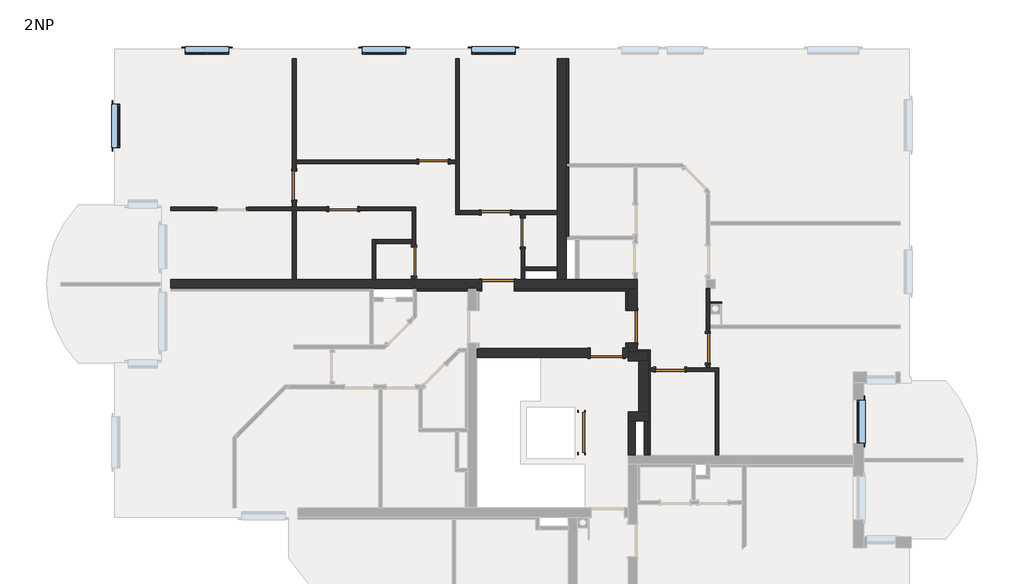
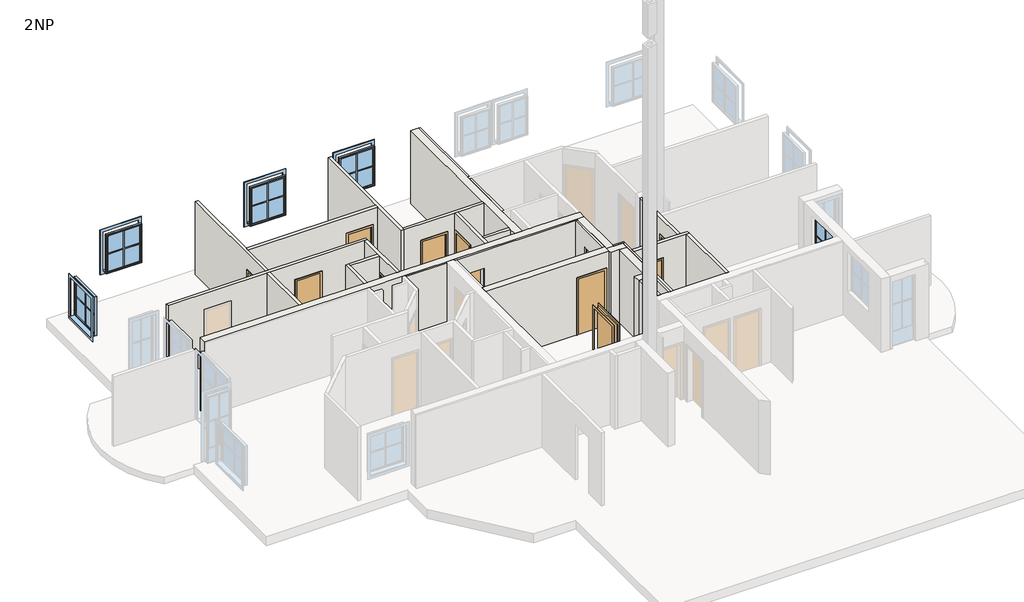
# One storey, part 3 of 4: 31 walls, 12 doors, 5 windows.
"""IFC4 building model written with IfcOpenShell, lengths in millimetres."""

import ifcopenshell
import ifcopenshell.guid

model = None  # the IFC model being written
_history = None  # IfcOwnerHistory: only IFC2X3 demands one
_inside = {}  # id of a spatial element -> (the spatial element, [elements in it])
_under = {}  # id of a project, library or spatial element -> (it, [spatial elements below it])
_declared = {}  # id of a project -> (the project, [libraries it declares])
_typed = {}  # id of a type object -> (the type object, [elements of that type])
_made_of = {}  # id of a material, layer set ... -> (it, [elements and type objects made of it])


def new_model(schema):
    """Start an empty IFC model of exactly this schema.

    Asked for "IFC4X3", IfcOpenShell would pick the latest addendum, in which some entities
    have other attributes; the version numbers below select the first issue.
    IFC2X3 requires an IfcOwnerHistory on every rooted entity: one is made here for all.
    """
    global model, _history
    if schema == "IFC4X3":
        model = ifcopenshell.file(schema_version=(4, 3, 0, 0))
    else:
        model = ifcopenshell.file(schema=schema)
    _inside.clear()
    _under.clear()
    _declared.clear()
    _typed.clear()
    _made_of.clear()
    _history = None
    if model.schema == "IFC2X3":
        org = make("IfcOrganization", Name="unknown")
        user = make(
            "IfcPersonAndOrganization",
            ThePerson=make("IfcPerson", FamilyName="unknown"),
            TheOrganization=org,
        )
        app = make(
            "IfcApplication",
            ApplicationDeveloper=org,
            Version="unknown",
            ApplicationFullName="unknown",
            ApplicationIdentifier="unknown",
        )
        _history = make(
            "IfcOwnerHistory",
            OwningUser=user,
            OwningApplication=app,
            ChangeAction="ADDED",
            CreationDate=0,
        )
    return model


def make(cls, **values):
    """One entity of the class cls with the attributes given. An attribute that is None is left unset."""
    return model.create_entity(
        cls, **{name: value for name, value in values.items() if value is not None}
    )


def rooted(cls, **values):
    """An entity with a GlobalId (a new one), such as an element, a storey or a relation."""
    return make(cls, GlobalId=ifcopenshell.guid.new(), OwnerHistory=_history, **values)


def si_unit(unit_type, name, prefix=None):
    """IfcSIUnit, for example si_unit("LENGTHUNIT", "METRE", prefix="MILLI")."""
    return make("IfcSIUnit", UnitType=unit_type, Prefix=prefix, Name=name)


def assignment(units):
    """IfcUnitAssignment: the units of a project."""
    return None if units is None else make("IfcUnitAssignment", Units=units)


def point(xyz):
    """IfcCartesianPoint."""
    return None if xyz is None else make("IfcCartesianPoint", Coordinates=xyz)


def direction(xyz):
    """IfcDirection."""
    return None if xyz is None else make("IfcDirection", DirectionRatios=xyz)


def frame(location, z_axis=None, x_axis=None):
    """IfcAxis2Placement3D, a coordinate frame: its origin and axes. An axis left out is left unset."""
    return make(
        "IfcAxis2Placement3D",
        Location=point(location),
        Axis=direction(z_axis),
        RefDirection=direction(x_axis),
    )


def origin():
    """The frame at (0, 0, 0) with its axes left unset."""
    return frame((0.0, 0.0, 0.0))


def origin_with_axes():
    """The frame at (0, 0, 0) with the z axis (0, 0, 1) and the x axis (1, 0, 0) written out."""
    return frame((0.0, 0.0, 0.0), z_axis=(0.0, 0.0, 1.0), x_axis=(1.0, 0.0, 0.0))


def place(relative_to, where):
    """IfcLocalPlacement: puts the frame where relative to a parent placement (None: the world)."""
    return make(
        "IfcLocalPlacement", PlacementRelTo=relative_to, RelativePlacement=where
    )


def context(
    kind, dimensions, precision=None, world=None, true_north=None, identifier=None
):
    """IfcGeometricRepresentationContext, for example the 3D "Model" context."""
    return make(
        "IfcGeometricRepresentationContext",
        ContextIdentifier=identifier,
        ContextType=kind,
        CoordinateSpaceDimension=dimensions,
        Precision=precision,
        WorldCoordinateSystem=world,
        TrueNorth=true_north,
    )


def project(units=None, contexts=None):
    """IfcProject with its units and contexts."""
    return rooted(
        "IfcProject",
        Name="project",
        RepresentationContexts=contexts,
        UnitsInContext=assignment(units),
    )


def spatial(cls, under=None, at=None, **own):
    """A site, building, storey or space (cls), placed at a placement, below another one or the project."""
    s = rooted(cls, ObjectPlacement=at, **own)
    if under is not None:
        _under.setdefault(under.id(), (under, []))[1].append(s)
    return s


def polyline(points):
    """IfcPolyline through the points."""
    return make("IfcPolyline", Points=[point(p) for p in points])


def outline(outer, holes=None, kind="AREA"):
    """IfcArbitraryClosedProfileDef: a profile drawn as a closed curve; with holes, ...WithVoids."""
    if holes is None:
        return make("IfcArbitraryClosedProfileDef", ProfileType=kind, OuterCurve=outer)
    return make(
        "IfcArbitraryProfileDefWithVoids",
        ProfileType=kind,
        OuterCurve=outer,
        InnerCurves=holes,
    )


def extrude(swept, where, along, depth):
    """IfcExtrudedAreaSolid: the profile swept, set in the frame where, extruded along a direction by depth."""
    return make(
        "IfcExtrudedAreaSolid",
        SweptArea=swept,
        Position=where,
        ExtrudedDirection=direction(along),
        Depth=depth,
    )


def faces_of(points, faces, orient=None, outer=None):
    """IfcFace entities. A face is a list of loops; a loop is a list of indices into points, from 0.

    orient and outer hold one flag for each loop. By default every Orientation is true, the
    first loop of a face is its IfcFaceOuterBound and the others are IfcFaceBound.
    """
    made = []
    for i, loops in enumerate(faces):
        bounds = []
        for j, loop in enumerate(loops):
            is_outer = j == 0 if outer is None else outer[i][j]
            bounds.append(
                make(
                    "IfcFaceOuterBound" if is_outer else "IfcFaceBound",
                    Bound=make("IfcPolyLoop", Polygon=[points[k] for k in loop]),
                    Orientation=True if orient is None else orient[i][j],
                )
            )
        made.append(make("IfcFace", Bounds=bounds))
    return made


def faceted_brep(points, faces, orient=None, outer=None, voids=None):
    """IfcFacetedBrep: a solid bounded by flat faces; with voids (closed shells), ...WithVoids."""
    shared = [point(p) for p in points]
    hull = make("IfcClosedShell", CfsFaces=faces_of(shared, faces, orient, outer))
    if voids is None:
        return make("IfcFacetedBrep", Outer=hull)
    return make(
        "IfcFacetedBrepWithVoids",
        Outer=hull,
        Voids=[
            make(cls, CfsFaces=faces_of(shared, fs, o, b)) for cls, fs, o, b in voids
        ],
    )


def shape(context_of_items, identifier, shape_type, items):
    """IfcShapeRepresentation: the items that make up one representation, for example the "Body"."""
    return make(
        "IfcShapeRepresentation",
        ContextOfItems=context_of_items,
        RepresentationIdentifier=identifier,
        RepresentationType=shape_type,
        Items=items,
    )


def source(mapping_origin, context_of_items, identifier, shape_type, items):
    """IfcRepresentationMap: a shape defined once, which mapped items show again and again."""
    return make(
        "IfcRepresentationMap",
        MappingOrigin=mapping_origin,
        MappedRepresentation=shape(context_of_items, identifier, shape_type, items),
    )


def transform(
    local_origin,
    x_axis=None,
    y_axis=None,
    z_axis=None,
    scale=None,
    scale2=None,
    scale3=None,
    uniform=True,
):
    """IfcCartesianTransformationOperator3D, or its non-uniform kind. x_axis, y_axis, z_axis: its Axis1, 2, 3."""
    if uniform:
        return make(
            "IfcCartesianTransformationOperator3D",
            Axis1=direction(x_axis),
            Axis2=direction(y_axis),
            LocalOrigin=point(local_origin),
            Scale=scale,
            Axis3=direction(z_axis),
        )
    return make(
        "IfcCartesianTransformationOperator3DnonUniform",
        Axis1=direction(x_axis),
        Axis2=direction(y_axis),
        LocalOrigin=point(local_origin),
        Scale=scale,
        Axis3=direction(z_axis),
        Scale2=scale2,
        Scale3=scale3,
    )


def mapped(mapping_source, mapping_target):
    """IfcMappedItem: shows the shape of a source again, moved by a transform."""
    return make(
        "IfcMappedItem", MappingSource=mapping_source, MappingTarget=mapping_target
    )


def made_of(thing, what):
    """Note that an element or type object is made of a material, layer set ...; save() writes the relation."""
    if what is not None:
        _made_of.setdefault(what.id(), (what, []))[1].append(thing)
    return thing


def element(
    cls,
    number,
    at=None,
    inside=None,
    cuts=None,
    type_object=None,
    material=None,
    context=None,
    identifier="Body",
    shape_type=None,
    held_by="IfcProductDefinitionShape",
    body=None,
    shapes=None,
    **own,
):
    """One element of the class cls, such as IfcWall. Its Tag is "e" and its number.

    at: its placement. inside: the storey or other place that contains it. cuts: it is an
    opening in that element (IfcRelVoidsElement). A single representation is given by context,
    identifier, shape_type and body (its items); several are given by shapes. held_by: the class
    of the entity that holds the representations. save() writes the other relations.
    """
    e = rooted(cls, Tag="e%d" % number, ObjectPlacement=at, **own)
    if body is not None:
        shapes = [shape(context, identifier, shape_type, body)]
    if shapes is not None:
        e.Representation = make(held_by, Representations=shapes)
    if inside is not None:
        _inside.setdefault(inside.id(), (inside, []))[1].append(e)
    if cuts is not None:
        rooted(
            "IfcRelVoidsElement", RelatingBuildingElement=cuts, RelatedOpeningElement=e
        )
    if type_object is not None:
        _typed.setdefault(type_object.id(), (type_object, []))[1].append(e)
    return made_of(e, material)


def aggregate(whole, parts):
    """IfcRelAggregates: a whole, such as a stair, and the parts it consists of."""
    return rooted("IfcRelAggregates", RelatingObject=whole, RelatedObjects=parts)


def save(model, path):
    """Write the relations noted so far, then the file.

    IfcRelAggregates (storeys below a building ...), IfcRelContainedInSpatialStructure (elements
    in a storey), IfcRelDefinesByType, IfcRelAssociatesMaterial and IfcRelDeclares: one each for
    every whole, place, type object, material and project.
    """
    for whole, parts in _under.values():
        aggregate(whole, parts)
    for where, things in _inside.values():
        rooted(
            "IfcRelContainedInSpatialStructure",
            RelatedElements=things,
            RelatingStructure=where,
        )
    for kind, things in _typed.values():
        rooted("IfcRelDefinesByType", RelatedObjects=things, RelatingType=kind)
    for what, things in _made_of.values():
        rooted("IfcRelAssociatesMaterial", RelatedObjects=things, RelatingMaterial=what)
    for by, libraries in _declared.values():
        rooted("IfcRelDeclares", RelatingContext=by, RelatedDefinitions=libraries)
    model.write(path)


def sd_1100x2000_1d62120a(model_context):
    return source(origin(), model_context, "Body", "SweptSolid", [
        extrude(outline(polyline([(2060.0, -610.0), (0.0, -610.0), (0.0, -550.0), (2000.0, -550.0), (2000.0, 550.0), (0.0, 550.0), (0.0, 610.0), (2060.0, 610.0), (2060.0, -610.0)])), frame((0.0, 85.0, 0.0), z_axis=(0.0, 1.0, 0.0), x_axis=(0.0, 0.0, 1.0)), (0.0, 0.0, 1.0), 20.0),
        extrude(outline(polyline([(2060.0, 610.0), (2060.0, -610.0), (0.0, -610.0), (0.0, -550.0), (2000.0, -550.0), (2000.0, 550.0), (0.0, 550.0), (0.0, 610.0), (2060.0, 610.0)])), frame((0.0, -105.0, 0.0), z_axis=(0.0, 1.0, 0.0), x_axis=(0.0, 0.0, 1.0)), (0.0, 0.0, 1.0), 20.0),
        extrude(outline(polyline([(550.0, 35.0), (-550.0, 35.0), (-550.0, 85.0), (550.0, 85.0), (550.0, 35.0)])), origin_with_axes(), (0.0, 0.0, 1.0), 2000.0),
    ])


def sd_800x2000_6a16926d(model_context):
    return source(origin(), model_context, "Body", "SweptSolid", [
        extrude(outline(polyline([(2060.0, -460.0), (0.0, -460.0), (0.0, -400.0), (2000.0, -400.0), (2000.0, 400.0), (0.0, 400.0), (0.0, 460.0), (2060.0, 460.0), (2060.0, -460.0)])), frame((0.0, -70.0, 0.0), z_axis=(0.0, 1.0, 0.0), x_axis=(0.0, 0.0, 1.0)), (0.0, 0.0, 1.0), 20.0),
        extrude(outline(polyline([(2060.0, 460.0), (2060.0, -460.0), (0.0, -460.0), (0.0, -400.0), (2000.0, -400.0), (2000.0, 400.0), (0.0, 400.0), (0.0, 460.0), (2060.0, 460.0)])), frame((0.0, 50.0, 0.0), z_axis=(0.0, 1.0, 0.0), x_axis=(0.0, 0.0, 1.0)), (0.0, 0.0, 1.0), 20.0),
        extrude(outline(polyline([(400.0, 0.0), (400.0, -50.0), (-400.0, -50.0), (-400.0, 0.0), (400.0, 0.0)])), origin_with_axes(), (0.0, 0.0, 1.0), 2000.0),
    ])


def sd_800x2000_80f4ff25(model_context):
    return source(origin(), model_context, "Body", "SweptSolid", [
        extrude(outline(polyline([(2060.0, -460.0), (0.0, -460.0), (0.0, -400.0), (2000.0, -400.0), (2000.0, 400.0), (0.0, 400.0), (0.0, 460.0), (2060.0, 460.0), (2060.0, -460.0)])), frame((0.0, 50.0, 0.0), z_axis=(0.0, 1.0, 0.0), x_axis=(0.0, 0.0, 1.0)), (0.0, 0.0, 1.0), 20.0),
        extrude(outline(polyline([(2060.0, 460.0), (2060.0, -460.0), (0.0, -460.0), (0.0, -400.0), (2000.0, -400.0), (2000.0, 400.0), (0.0, 400.0), (0.0, 460.0), (2060.0, 460.0)])), frame((0.0, -70.0, 0.0), z_axis=(0.0, 1.0, 0.0), x_axis=(0.0, 0.0, 1.0)), (0.0, 0.0, 1.0), 20.0),
        extrude(outline(polyline([(400.0, 0.0), (-400.0, 0.0), (-400.0, 50.0), (400.0, 50.0), (400.0, 0.0)])), origin_with_axes(), (0.0, 0.0, 1.0), 2000.0),
    ])


def sd_900x2000_a6683946(model_context):
    return source(origin(), model_context, "Body", "SweptSolid", [
        extrude(outline(polyline([(2060.0, -510.0), (0.0, -510.0), (0.0, -450.0), (2000.0, -450.0), (2000.0, 450.0), (0.0, 450.0), (0.0, 510.0), (2060.0, 510.0), (2060.0, -510.0)])), frame((0.0, -145.0, 0.0), z_axis=(0.0, 1.0, 0.0), x_axis=(0.0, 0.0, 1.0)), (0.0, 0.0, 1.0), 20.0),
        extrude(outline(polyline([(2060.0, 510.0), (2060.0, -510.0), (0.0, -510.0), (0.0, -450.0), (2000.0, -450.0), (2000.0, 450.0), (0.0, 450.0), (0.0, 510.0), (2060.0, 510.0)])), frame((0.0, 125.0, 0.0), z_axis=(0.0, 1.0, 0.0), x_axis=(0.0, 0.0, 1.0)), (0.0, 0.0, 1.0), 20.0),
        extrude(outline(polyline([(450.0, -75.0), (450.0, -125.0), (-450.0, -125.0), (-450.0, -75.0), (450.0, -75.0)])), origin_with_axes(), (0.0, 0.0, 1.0), 2000.0),
    ])


def sd_900x2000_4224ae2a(model_context):
    return source(origin(), model_context, "Body", "SweptSolid", [
        extrude(outline(polyline([(2060.0, -510.0), (0.0, -510.0), (0.0, -450.0), (2000.0, -450.0), (2000.0, 450.0), (0.0, 450.0), (0.0, 510.0), (2060.0, 510.0), (2060.0, -510.0)])), frame((0.0, 125.0, 0.0), z_axis=(0.0, 1.0, 0.0), x_axis=(0.0, 0.0, 1.0)), (0.0, 0.0, 1.0), 20.0),
        extrude(outline(polyline([(2060.0, 510.0), (2060.0, -510.0), (0.0, -510.0), (0.0, -450.0), (2000.0, -450.0), (2000.0, 450.0), (0.0, 450.0), (0.0, 510.0), (2060.0, 510.0)])), frame((0.0, -145.0, 0.0), z_axis=(0.0, 1.0, 0.0), x_axis=(0.0, 0.0, 1.0)), (0.0, 0.0, 1.0), 20.0),
        extrude(outline(polyline([(450.0, 75.0), (-450.0, 75.0), (-450.0, 125.0), (450.0, 125.0), (450.0, 75.0)])), origin_with_axes(), (0.0, 0.0, 1.0), 2000.0),
    ])


def standard_window_with_mullions_80486b60(model_context):
    return source(origin(), model_context, "Body", "SweptSolid", [
        extrude(outline(polyline([(600.0, 26.9623738), (-600.0, 26.9623738), (-600.0, 180.0), (600.0, 180.0), (600.0, 26.9623738)])), frame((0.0, 0.0, 1000.0), z_axis=(0.0, 0.0, 1.0), x_axis=(1.0, 0.0, 0.0)), (0.0, 0.0, 1.0), 25.0),
        extrude(outline(polyline([(2500.0, -700.0), (900.0, -700.0), (900.0, 700.0), (2500.0, 700.0), (2500.0, -700.0)]), holes=[polyline([(2400.0, -600.0), (2400.0, 600.0), (1000.0, 600.0), (1000.0, -600.0), (2400.0, -600.0)])]), frame((0.0, 150.0, 0.0), z_axis=(0.0, 1.0, 0.0), x_axis=(0.0, 0.0, 1.0)), (0.0, 0.0, 1.0), 15.0),
        extrude(outline(polyline([(2375.0, -575.0), (1025.0, -575.0), (1025.0, 575.0), (2375.0, 575.0), (2375.0, -575.0)]), holes=[polyline([(2340.0, -540.0), (2340.0, 540.0), (1060.0, 540.0), (1060.0, -540.0), (2340.0, -540.0)])]), frame((0.0, -39.0188131, 0.0), z_axis=(0.0, 1.0, 0.0), x_axis=(0.0, 0.0, 1.0)), (0.0, 0.0, 1.0), 50.5),
        extrude(outline(polyline([(1000.0, -600.0), (1000.0, 600.0), (2400.0, 600.0), (2400.0, -600.0), (1000.0, -600.0)]), holes=[polyline([(1025.0, -575.0), (2375.0, -575.0), (2375.0, 575.0), (1025.0, 575.0), (1025.0, -575.0)])]), frame((0.0, -39.0188131, 0.0), z_axis=(0.0, 1.0, 0.0), x_axis=(0.0, 0.0, 1.0)), (0.0, 0.0, 1.0), 65.9811869),
        extrude(outline(polyline([(1715.0, 540.0), (1715.0, 15.0), (2340.0, 15.0), (2340.0, -15.0), (1715.0, -15.0), (1715.0, -540.0), (1685.0, -540.0), (1685.0, -15.0), (1060.0, -15.0), (1060.0, 15.0), (1685.0, 15.0), (1685.0, 540.0), (1715.0, 540.0)])), frame((0.0, -28.5188131, 0.0), z_axis=(0.0, 1.0, 0.0), x_axis=(0.0, 0.0, 1.0)), (0.0, 0.0, 1.0), 20.0),
        extrude(outline(polyline([(540.0, -15.5188131), (-540.0, -15.5188131), (-540.0, -13.5188131), (540.0, -13.5188131), (540.0, -15.5188131)])), frame((0.0, 0.0, 1060.0), z_axis=(0.0, 0.0, 1.0), x_axis=(1.0, 0.0, 0.0)), (0.0, 0.0, 1.0), 1280.0),
    ])


model = new_model("IFC4")

# Units and contexts
model_context = context("Model", 3, world=origin())
ifc_project = project(units=[si_unit("LENGTHUNIT", "METRE", prefix="MILLI")], contexts=[model_context])

# Site, building, storey
site = spatial("IfcSite", under=ifc_project)
building = spatial("IfcBuilding", under=site)
storey = spatial("IfcBuildingStorey", under=building, Name="2NP", Elevation=2950.0)

# Doors
placement = place(None, origin())
sd_1100x2000_shape = sd_1100x2000_1d62120a(model_context)
element("IfcDoor", 1, ObjectType="JednokridlePlne : SD 1100x2000", at=placement, inside=storey, context=model_context, shape_type="MappedRepresentation", body=[
    mapped(sd_1100x2000_shape, transform((277.8037835, 250.1290541, 2950.0), x_axis=(0.0, -1.0, 0.0), y_axis=(1.0, 0.0, 0.0), z_axis=(0.0, 0.0, 1.0))),
])
sd_800x2000_shape = sd_800x2000_6a16926d(model_context)
element("IfcDoor", 2, ObjectType="JednokridlePlne : SD 800x2000", at=placement, inside=storey, context=model_context, shape_type="MappedRepresentation", body=[
    mapped(sd_800x2000_shape, transform((-3800.8325535, 7717.6290541, 2950.0), x_axis=(-1.0, 0.0, 0.0), y_axis=(0.0, -1.0, 0.0), z_axis=(0.0, 0.0, 1.0))),
])
element("IfcDoor", 3, ObjectType="JednokridlePlne : SD 800x2000", at=placement, inside=storey, context=model_context, shape_type="MappedRepresentation", body=[
    mapped(sd_800x2000_shape, transform((-6287.704274, 6417.6290541, 2950.0), x_axis=(1.0, 0.0, 0.0), y_axis=(0.0, 1.0, 0.0), z_axis=(0.0, 0.0, 1.0))),
])
element("IfcDoor", 4, ObjectType="JednokridlePlne : SD 800x2000", at=placement, inside=storey, context=model_context, shape_type="MappedRepresentation", body=[
    mapped(sd_800x2000_shape, transform((2717.8037831, 1986.2076978, 2950.0), x_axis=(1.0, 0.0, 0.0), y_axis=(0.0, 1.0, 0.0), z_axis=(0.0, 0.0, 1.0))),
])
element("IfcDoor", 5, ObjectType="JednokridlePlne : SD 800x2000", at=placement, inside=storey, context=model_context, shape_type="MappedRepresentation", body=[
    mapped(sd_800x2000_shape, transform((-7637.1962165, 7067.6290545, 2950.0), x_axis=(0.0, -1.0, 0.0), y_axis=(1.0, 0.0, 0.0), z_axis=(0.0, 0.0, 1.0))),
])
element("IfcDoor", 6, ObjectType="JednokridlePlne : SD 800x2000", at=placement, inside=storey, context=model_context, shape_type="MappedRepresentation", body=[
    mapped(sd_800x2000_shape, transform((-4337.1962165, 4967.6290521, 2950.0), x_axis=(0.0, 1.0, 0.0), y_axis=(-1.0, 0.0, 0.0), z_axis=(0.0, 0.0, 1.0))),
])
element("IfcDoor", 7, ObjectType="JednokridlePlne : SD 800x2000", at=placement, inside=storey, context=model_context, shape_type="MappedRepresentation", body=[
    mapped(sd_800x2000_shape, transform((-1337.1962165, 5771.0654585, 2950.0), x_axis=(0.0, -1.0, 0.0), y_axis=(1.0, 0.0, 0.0), z_axis=(0.0, 0.0, 1.0))),
])
sd_800x2000_2_shape = sd_800x2000_80f4ff25(model_context)
element("IfcDoor", 8, ObjectType="JednokridlePlne : SD 800x2000", at=placement, inside=storey, context=model_context, shape_type="MappedRepresentation", body=[
    mapped(sd_800x2000_2_shape, transform((3762.8037835, 2576.2076972, 2950.0), x_axis=(0.0, -1.0, 0.0), y_axis=(1.0, 0.0, 0.0), z_axis=(0.0, 0.0, 1.0))),
])
element("IfcDoor", 9, ObjectType="JednokridlePlne : SD 800x2000", at=placement, inside=storey, context=model_context, shape_type="MappedRepresentation", body=[
    mapped(sd_800x2000_2_shape, transform((-2086.838296, 6317.6290541, 2950.0), x_axis=(1.0, 0.0, 0.0), y_axis=(0.0, 1.0, 0.0), z_axis=(0.0, 0.0, 1.0))),
])
sd_900x2000_shape = sd_900x2000_a6683946(model_context)
element("IfcDoor", 10, ObjectType="JednokridlePlne : SD 900x2000", at=placement, inside=storey, context=model_context, shape_type="MappedRepresentation", body=[
    mapped(sd_900x2000_shape, transform((1687.8037835, 3171.1987133, 2950.0), x_axis=(0.0, 1.0, 0.0), y_axis=(-1.0, 0.0, 0.0), z_axis=(0.0, 0.0, 1.0))),
])
element("IfcDoor", 11, ObjectType="JednokridlePlne : SD 900x2000", at=placement, inside=storey, context=model_context, shape_type="MappedRepresentation", body=[
    mapped(sd_900x2000_shape, transform((-2027.1962165, 4342.6290541, 2950.0), x_axis=(-1.0, 0.0, 0.0), y_axis=(0.0, -1.0, 0.0), z_axis=(0.0, 0.0, 1.0))),
])
sd_900x2000_2_shape = sd_900x2000_4224ae2a(model_context)
element("IfcDoor", 12, ObjectType="JednokridlePlne : SD 900x2000", at=placement, inside=storey, context=model_context, shape_type="MappedRepresentation", body=[
    mapped(sd_900x2000_2_shape, transform((967.0786115, 2442.6290541, 2950.0), x_axis=(-1.0, 0.0, 0.0), y_axis=(0.0, -1.0, 0.0), z_axis=(0.0, 0.0, 1.0))),
])

# Walls
element("IfcWall", 13, ObjectType="Interior - 100mm", at=placement, inside=storey, context=model_context, shape_type="SweptSolid", body=[
    extrude(outline(polyline([(-7687.1962165, 4467.6290541), (-7687.1962165, 6367.6290541), (-7587.1962165, 6367.6290541), (-7587.1962165, 4467.6290541), (-7687.1962165, 4467.6290541)])), frame((0.0, 0.0, 2950.0), z_axis=(0.0, 0.0, 1.0), x_axis=(1.0, 0.0, 0.0)), (0.0, 0.0, 1.0), 2630.0),
])
element("IfcWall", 14, ObjectType="Interior - 100mm", at=placement, inside=storey, context=model_context, shape_type="Brep", body=[
    faceted_brep([(-8962.1962165, 6367.6290541, 4950.0), (-8962.1962165, 6367.6290541, 2950.0), (-7687.1962165, 6367.6290541, 2950.0), (-7587.1962165, 6367.6290541, 2950.0), (-6687.704274, 6367.6290541, 2950.0), (-6687.704274, 6367.6290541, 4950.0), (-5887.704274, 6367.6290541, 4950.0), (-5887.704274, 6367.6290541, 2950.0), (-4387.1962165, 6367.6290541, 2950.0), (-4287.1962165, 6367.6290541, 2950.0), (-4287.1962165, 6367.6290541, 5580.0), (-4387.1962165, 6367.6290541, 5580.0), (-7587.1962165, 6367.6290541, 5580.0), (-7687.1962165, 6367.6290541, 5580.0), (-11037.1962165, 6367.6290541, 5580.0), (-11037.1962165, 6367.6290541, 2950.0), (-9762.1962165, 6367.6290541, 2950.0), (-9762.1962165, 6367.6290541, 4950.0), (-6687.704274, 6467.6290541, 2950.0), (-7587.1962165, 6467.6290541, 2950.0), (-7687.1962165, 6467.6290541, 2950.0), (-8962.1962165, 6467.6290541, 2950.0), (-8962.1962165, 6467.6290541, 4950.0), (-9762.1962165, 6467.6290541, 4950.0), (-9762.1962165, 6467.6290541, 2950.0), (-11037.1962165, 6467.6290541, 2950.0), (-11037.1962165, 6467.6290541, 5580.0), (-7687.1962165, 6467.6290541, 5580.0), (-7587.1962165, 6467.6290541, 5580.0), (-4287.1962165, 6467.6290541, 5580.0), (-4287.1962165, 6467.6290541, 2950.0), (-5887.704274, 6467.6290541, 2950.0), (-5887.704274, 6467.6290541, 4950.0), (-6687.704274, 6467.6290541, 4950.0)], [[[0, 1, 2, 3, 4, 5, 6, 7, 8, 9, 10, 11, 12, 13, 14, 15, 16, 17]], [[18, 19, 20, 21, 22, 23, 24, 25, 26, 27, 28, 29, 30, 31, 32, 33]], [[9, 8, 7, 31, 30]], [[4, 3, 2, 1, 21, 20, 19, 18]], [[16, 15, 25, 24]], [[10, 9, 30, 29]], [[15, 14, 26, 25]], [[14, 13, 12, 11, 10, 29, 28, 27, 26]], [[32, 31, 7, 6]], [[33, 32, 6, 5]], [[18, 33, 5, 4]], [[22, 21, 1, 0]], [[23, 22, 0, 17]], [[24, 23, 17, 16]]]),
])
element("IfcWall", 15, ObjectType="Interior - 100mm", at=placement, inside=storey, context=model_context, shape_type="Brep", body=[
    faceted_brep([(-4387.1962165, 6367.6290541, 2950.0), (-4387.1962165, 5567.6290541, 2950.0), (-4387.1962165, 5467.6290541, 2950.0), (-4387.1962165, 5367.6290521, 2950.0), (-4387.1962165, 5367.6290521, 4950.0), (-4387.1962165, 4567.6290521, 4950.0), (-4387.1962165, 4567.6290521, 2950.0), (-4387.1962165, 4467.6290541, 2950.0), (-4387.1962165, 4467.6290541, 5580.0), (-4387.1962165, 5467.6290541, 5580.0), (-4387.1962165, 5567.6290541, 5580.0), (-4387.1962165, 6367.6290541, 5580.0), (-4287.1962165, 5367.6290521, 4950.0), (-4287.1962165, 5367.6290521, 2950.0), (-4287.1962165, 6367.6290541, 2950.0), (-4287.1962165, 6367.6290541, 5580.0), (-4287.1962165, 4467.6290541, 5580.0), (-4287.1962165, 4467.6290541, 2950.0), (-4287.1962165, 4567.6290521, 2950.0), (-4287.1962165, 4567.6290521, 4950.0)], [[[0, 1, 2, 3, 4, 5, 6, 7, 8, 9, 10, 11]], [[12, 13, 14, 15, 16, 17, 18, 19]], [[14, 13, 3, 2, 1, 0]], [[18, 17, 7, 6]], [[0, 11, 15, 14]], [[8, 7, 17, 16]], [[11, 10, 9, 8, 16, 15]], [[4, 3, 13, 12]], [[5, 4, 12, 19]], [[6, 5, 19, 18]]]),
])
element("IfcWall", 16, ObjectType="Interior - 100mm", at=placement, inside=storey, context=model_context, shape_type="Brep", body=[
    faceted_brep([(-3087.1962165, 6267.6290541, 2950.0), (-3087.1962165, 6367.6290541, 2950.0), (-3087.1962165, 10567.6290541, 2950.0), (-3087.1962165, 10567.6290541, 5580.0), (-3087.1962165, 6367.6290541, 5580.0), (-3087.1962165, 6267.6290541, 5580.0), (-3187.1962165, 6267.6290541, 2950.0), (-3187.1962165, 6267.6290541, 5580.0), (-3187.1962165, 7667.6290541, 5580.0), (-3187.1962165, 7767.6290541, 5580.0), (-3187.1962165, 10567.6290541, 5580.0), (-3187.1962165, 10567.6290541, 2950.0), (-3187.1962165, 7767.6290541, 2950.0), (-3187.1962165, 7667.6290541, 2950.0)], [[[0, 1, 2, 3, 4, 5]], [[6, 7, 8, 9, 10, 11, 12, 13]], [[2, 1, 0, 6, 13, 12, 11]], [[0, 5, 7, 6]], [[3, 2, 11, 10]], [[5, 4, 3, 10, 9, 8, 7]]]),
])
element("IfcWall", 17, ObjectType="Interior - 100mm", at=placement, inside=storey, context=model_context, shape_type="SweptSolid", body=[
    extrude(outline(polyline([(2950.0, -7587.1962165), (2950.0, -4200.8325535), (4950.0, -4200.8325535), (4950.0, -3400.8325535), (2950.0, -3400.8325535), (2950.0, -3187.1962165), (5580.0, -3187.1962165), (5580.0, -7587.1962165), (2950.0, -7587.1962165)])), frame((0.0, 7667.6290541, 0.0), z_axis=(0.0, 1.0, 0.0), x_axis=(0.0, 0.0, 1.0)), (0.0, 0.0, 1.0), 100.0),
])
element("IfcWall", 18, ObjectType="Interior - 100mm", at=placement, inside=storey, context=model_context, shape_type="Brep", body=[
    faceted_brep([(-7587.1962165, 6467.6290541, 2950.0), (-7587.1962165, 6667.6290545, 2950.0), (-7587.1962165, 6667.6290545, 4950.0), (-7587.1962165, 7467.6290545, 4950.0), (-7587.1962165, 7467.6290545, 2950.0), (-7587.1962165, 7667.6290541, 2950.0), (-7587.1962165, 7767.6290541, 2950.0), (-7587.1962165, 10567.6290541, 2950.0), (-7587.1962165, 10567.6290541, 5580.0), (-7587.1962165, 7767.6290541, 5580.0), (-7587.1962165, 7667.6290541, 5580.0), (-7587.1962165, 6467.6290541, 5580.0), (-7687.1962165, 6667.6290545, 4950.0), (-7687.1962165, 6667.6290545, 2950.0), (-7687.1962165, 6467.6290541, 2950.0), (-7687.1962165, 6467.6290541, 5580.0), (-7687.1962165, 10567.6290541, 5580.0), (-7687.1962165, 10567.6290541, 2950.0), (-7687.1962165, 7467.6290545, 2950.0), (-7687.1962165, 7467.6290545, 4950.0)], [[[0, 1, 2, 3, 4, 5, 6, 7, 8, 9, 10, 11]], [[12, 13, 14, 15, 16, 17, 18, 19]], [[14, 13, 1, 0]], [[18, 17, 7, 6, 5, 4]], [[8, 7, 17, 16]], [[0, 11, 15, 14]], [[11, 10, 9, 8, 16, 15]], [[2, 1, 13, 12]], [[3, 2, 12, 19]], [[4, 3, 19, 18]]]),
])
element("IfcWall", 19, ObjectType="Interior - 100mm", at=placement, inside=storey, context=model_context, shape_type="Brep", body=[
    faceted_brep([(-1686.838296, 6267.6290541, 4950.0), (-1686.838296, 6267.6290541, 2950.0), (-1387.1962165, 6267.6290541, 2950.0), (-1287.1962165, 6267.6290541, 2950.0), (-387.1962165, 6267.6290541, 2950.0), (-387.1962165, 6267.6290541, 5580.0), (-1287.1962165, 6267.6290541, 5580.0), (-1387.1962165, 6267.6290541, 5580.0), (-3087.1962165, 6267.6290541, 5580.0), (-3087.1962165, 6267.6290541, 2950.0), (-2486.838296, 6267.6290541, 2950.0), (-2486.838296, 6267.6290541, 4950.0), (-387.1962165, 6367.6290541, 2950.0), (-1686.838296, 6367.6290541, 2950.0), (-1686.838296, 6367.6290541, 4950.0), (-2486.838296, 6367.6290541, 4950.0), (-2486.838296, 6367.6290541, 2950.0), (-3087.1962165, 6367.6290541, 2950.0), (-3087.1962165, 6367.6290541, 5580.0), (-387.1962165, 6367.6290541, 5580.0)], [[[0, 1, 2, 3, 4, 5, 6, 7, 8, 9, 10, 11]], [[12, 13, 14, 15, 16, 17, 18, 19]], [[4, 3, 2, 1, 13, 12]], [[10, 9, 17, 16]], [[5, 4, 12, 19]], [[9, 8, 18, 17]], [[8, 7, 6, 5, 19, 18]], [[14, 13, 1, 0]], [[15, 14, 0, 11]], [[16, 15, 11, 10]]]),
])
element("IfcWall", 20, ObjectType="Interior - 100mm", at=placement, inside=storey, context=model_context, shape_type="Brep", body=[
    faceted_brep([(-1287.1962165, 4467.6290541, 2950.0), (-1287.1962165, 4717.6290541, 2950.0), (-1287.1962165, 4817.6290541, 2950.0), (-1287.1962165, 5371.0654585, 2950.0), (-1287.1962165, 5371.0654585, 4950.0), (-1287.1962165, 6171.0654585, 4950.0), (-1287.1962165, 6171.0654585, 2950.0), (-1287.1962165, 6267.6290541, 2950.0), (-1287.1962165, 6267.6290541, 5580.0), (-1287.1962165, 4817.6290541, 5580.0), (-1287.1962165, 4717.6290541, 5580.0), (-1287.1962165, 4467.6290541, 5580.0), (-1387.1962165, 5371.0654585, 4950.0), (-1387.1962165, 5371.0654585, 2950.0), (-1387.1962165, 4467.6290541, 2950.0), (-1387.1962165, 4467.6290541, 5580.0), (-1387.1962165, 6267.6290541, 5580.0), (-1387.1962165, 6267.6290541, 2950.0), (-1387.1962165, 6171.0654585, 2950.0), (-1387.1962165, 6171.0654585, 4950.0)], [[[0, 1, 2, 3, 4, 5, 6, 7, 8, 9, 10, 11]], [[12, 13, 14, 15, 16, 17, 18, 19]], [[14, 13, 3, 2, 1, 0]], [[18, 17, 7, 6]], [[0, 11, 15, 14]], [[8, 7, 17, 16]], [[11, 10, 9, 8, 16, 15]], [[4, 3, 13, 12]], [[5, 4, 12, 19]], [[6, 5, 19, 18]]]),
])
element("IfcWall", 21, ObjectType="Interior - 100mm", at=placement, inside=storey, context=model_context, shape_type="SweptSolid", body=[
    extrude(outline(polyline([(-387.1962165, 4717.6290541), (-1287.1962165, 4717.6290541), (-1287.1962165, 4817.6290541), (-387.1962165, 4817.6290541), (-387.1962165, 4717.6290541)])), frame((0.0, 0.0, 2950.0), z_axis=(0.0, 0.0, 1.0), x_axis=(1.0, 0.0, 0.0)), (0.0, 0.0, 1.0), 2630.0),
])
element("IfcWall", 22, ObjectType="Interior - 100mm", at=placement, inside=storey, context=model_context, shape_type="Brep", body=[
    faceted_brep([(3117.8037831, 1936.2076978, 4950.0), (3117.8037831, 1936.2076978, 2950.0), (3962.8037835, 1936.2076978, 2950.0), (4062.8037835, 1936.2076978, 2950.0), (4062.8037835, 1936.2076978, 5580.0), (3962.8037835, 1936.2076978, 5580.0), (2177.8037835, 1936.2076978, 5580.0), (2177.8037835, 1936.2076978, 2950.0), (2317.8037831, 1936.2076978, 2950.0), (2317.8037831, 1936.2076978, 4950.0), (4062.8037835, 2036.2076978, 2950.0), (3812.8037835, 2036.2076978, 2950.0), (3712.8037835, 2036.2076978, 2950.0), (3117.8037831, 2036.2076978, 2950.0), (3117.8037831, 2036.2076978, 4950.0), (2317.8037831, 2036.2076978, 4950.0), (2317.8037831, 2036.2076978, 2950.0), (2177.8037835, 2036.2076978, 2950.0), (2177.8037835, 2036.2076978, 5580.0), (3712.8037835, 2036.2076978, 5580.0), (3812.8037835, 2036.2076978, 5580.0), (4062.8037835, 2036.2076978, 5580.0)], [[[0, 1, 2, 3, 4, 5, 6, 7, 8, 9]], [[10, 11, 12, 13, 14, 15, 16, 17, 18, 19, 20, 21]], [[3, 2, 1, 13, 12, 11, 10]], [[8, 7, 17, 16]], [[4, 3, 10, 21]], [[7, 6, 18, 17]], [[6, 5, 4, 21, 20, 19, 18]], [[14, 13, 1, 0]], [[15, 14, 0, 9]], [[16, 15, 9, 8]]]),
])
element("IfcWall", 23, ObjectType="Interior - 100mm", at=placement, inside=storey, context=model_context, shape_type="SweptSolid", body=[
    extrude(outline(polyline([(3962.8037835, -382.3709459), (3962.8037835, 1936.2076978), (4062.8037835, 1936.2076978), (4062.8037835, -382.3709459), (3962.8037835, -382.3709459)])), frame((0.0, 0.0, 2950.0), z_axis=(0.0, 0.0, 1.0), x_axis=(1.0, 0.0, 0.0)), (0.0, 0.0, 1.0), 2630.0),
])
element("IfcWall", 24, ObjectType="Interior - 100mm", at=placement, inside=storey, context=model_context, shape_type="SweptSolid", body=[
    extrude(outline(polyline([(2012.8037835, -382.3709459), (2012.8037835, 567.6290541), (2112.8037835, 567.6290541), (2112.8037835, -382.3709459), (2012.8037835, -382.3709459)])), frame((0.0, 0.0, 2950.0), z_axis=(0.0, 0.0, 1.0), x_axis=(1.0, 0.0, 0.0)), (0.0, 0.0, 1.0), 2630.0),
])
element("IfcWall", 25, ObjectType="Interior - 100mm", at=placement, inside=storey, context=model_context, shape_type="Brep", body=[
    faceted_brep([(3712.8037835, 2176.2076972, 4950.0), (3712.8037835, 2176.2076972, 2950.0), (3712.8037835, 2036.2076978, 2950.0), (3712.8037835, 2036.2076978, 5580.0), (3712.8037835, 4217.6290541, 5580.0), (3712.8037835, 4217.6290541, 2950.0), (3712.8037835, 2976.2076972, 2950.0), (3712.8037835, 2976.2076972, 4950.0), (3812.8037835, 2036.2076978, 2950.0), (3812.8037835, 2176.2076972, 2950.0), (3812.8037835, 2176.2076972, 4950.0), (3812.8037835, 2976.2076972, 4950.0), (3812.8037835, 2976.2076972, 2950.0), (3812.8037835, 3116.2076978, 2950.0), (3812.8037835, 3216.2076978, 2950.0), (3812.8037835, 3516.2076978, 2950.0), (3812.8037835, 3816.2076978, 2950.0), (3812.8037835, 3846.2076978, 2950.0), (3812.8037835, 4217.6290541, 2950.0), (3812.8037835, 4217.6290541, 5580.0), (3812.8037835, 3216.2076978, 5580.0), (3812.8037835, 3116.2076978, 5580.0), (3812.8037835, 2036.2076978, 5580.0)], [[[0, 1, 2, 3, 4, 5, 6, 7]], [[8, 9, 10, 11, 12, 13, 14, 15, 16, 17, 18, 19, 20, 21, 22]], [[2, 1, 9, 8]], [[6, 5, 18, 17, 16, 15, 14, 13, 12]], [[3, 2, 8, 22]], [[5, 4, 19, 18]], [[4, 3, 22, 21, 20, 19]], [[10, 9, 1, 0]], [[11, 10, 0, 7]], [[12, 11, 7, 6]]]),
])
element("IfcWall", 26, ObjectType="Interior - 100mm", at=placement, inside=storey, context=model_context, shape_type="Brep", body=[
    faceted_brep([(-5387.1962165, 4467.6290541, 2950.0), (-5387.1962165, 5467.6290541, 2950.0), (-5387.1962165, 5567.6290541, 2950.0), (-5387.1962165, 5567.6290541, 5580.0), (-5387.1962165, 5467.6290541, 5580.0), (-5387.1962165, 4467.6290541, 5580.0), (-5487.1962165, 4467.6290541, 2950.0), (-5487.1962165, 4467.6290541, 5580.0), (-5487.1962165, 5567.6290541, 5580.0), (-5487.1962165, 5567.6290541, 2950.0)], [[[0, 1, 2, 3, 4, 5]], [[6, 7, 8, 9]], [[2, 1, 0, 6, 9]], [[3, 2, 9, 8]], [[0, 5, 7, 6]], [[5, 4, 3, 8, 7]]]),
])
element("IfcWall", 27, ObjectType="Interior - 100mm", at=placement, inside=storey, context=model_context, shape_type="SweptSolid", body=[
    extrude(outline(polyline([(-4387.1962165, 5467.6290541), (-5387.1962165, 5467.6290541), (-5387.1962165, 5567.6290541), (-4387.1962165, 5567.6290541), (-4387.1962165, 5467.6290541)])), frame((0.0, 0.0, 2950.0), z_axis=(0.0, 0.0, 1.0), x_axis=(1.0, 0.0, 0.0)), (0.0, 0.0, 1.0), 2630.0),
])
element("IfcWall", 28, ObjectType="Interior - 200mm", at=placement, inside=storey, context=model_context, shape_type="SweptSolid", body=[
    extrude(outline(polyline([(1562.8087381, -382.3709459), (1562.8087381, 567.6290541), (1762.8087381, 567.6290541), (1762.8087381, -382.3709459), (1562.8087381, -382.3709459)])), frame((0.0, 0.0, 2950.0), z_axis=(0.0, 0.0, 1.0), x_axis=(1.0, 0.0, 0.0)), (0.0, 0.0, 1.0), 2630.0),
])
element("IfcWall", 29, ObjectType="Interior - 250mm", at=placement, inside=storey, context=model_context, shape_type="Brep", body=[
    faceted_brep([(-11037.1962165, 4217.6290541, 2950.0), (-5557.1962165, 4217.6290541, 2950.0), (-5457.1962165, 4217.6290541, 2950.0), (-4357.1962165, 4217.6290541, 2950.0), (-4257.1962165, 4217.6290541, 2950.0), (-2857.1962165, 4217.6290541, 2950.0), (-2607.1962165, 4217.6290541, 2950.0), (-2477.1962165, 4217.6290541, 2950.0), (-2477.1962165, 4217.6290541, 4950.0), (-1577.1962165, 4217.6290541, 4950.0), (-1577.1962165, 4217.6290541, 2950.0), (1562.8037835, 4217.6290541, 2950.0), (1812.8037835, 4217.6290541, 2950.0), (1812.8037835, 4217.6290541, 5580.0), (1562.8037835, 4217.6290541, 5580.0), (-2607.1962165, 4217.6290541, 5580.0), (-2857.1962165, 4217.6290541, 5580.0), (-4257.1962165, 4217.6290541, 5580.0), (-4357.1962165, 4217.6290541, 5580.0), (-5457.1962165, 4217.6290541, 5580.0), (-5557.1962165, 4217.6290541, 5580.0), (-11037.1962165, 4217.6290541, 5580.0), (-2477.1962165, 4467.6290541, 4950.0), (-2477.1962165, 4467.6290541, 2950.0), (-4287.1962165, 4467.6290541, 2950.0), (-4387.1962165, 4467.6290541, 2950.0), (-5387.1962165, 4467.6290541, 2950.0), (-5487.1962165, 4467.6290541, 2950.0), (-7587.1962165, 4467.6290541, 2950.0), (-7687.1962165, 4467.6290541, 2950.0), (-11037.1962165, 4467.6290541, 2950.0), (-11037.1962165, 4467.6290541, 5580.0), (-7687.1962165, 4467.6290541, 5580.0), (-7587.1962165, 4467.6290541, 5580.0), (-5487.1962165, 4467.6290541, 5580.0), (-5387.1962165, 4467.6290541, 5580.0), (-4387.1962165, 4467.6290541, 5580.0), (-4287.1962165, 4467.6290541, 5580.0), (-1387.1962165, 4467.6290541, 5580.0), (-1287.1962165, 4467.6290541, 5580.0), (-387.1962165, 4467.6290541, 5580.0), (-137.1962165, 4467.6290541, 5580.0), (112.8037835, 4467.6290541, 5580.0), (212.8037835, 4467.6290541, 5580.0), (1712.8037835, 4467.6290541, 5580.0), (1812.8037835, 4467.6290541, 5580.0), (1812.8037835, 4467.6290541, 2950.0), (1712.8037835, 4467.6290541, 2950.0), (212.8037835, 4467.6290541, 2950.0), (112.8037835, 4467.6290541, 2950.0), (-137.1962165, 4467.6290541, 2950.0), (-387.1962165, 4467.6290541, 2950.0), (-1287.1962165, 4467.6290541, 2950.0), (-1387.1962165, 4467.6290541, 2950.0), (-1577.1962165, 4467.6290541, 2950.0), (-1577.1962165, 4467.6290541, 4950.0)], [[[0, 1, 2, 3, 4, 5, 6, 7, 8, 9, 10, 11, 12, 13, 14, 15, 16, 17, 18, 19, 20, 21]], [[22, 23, 24, 25, 26, 27, 28, 29, 30, 31, 32, 33, 34, 35, 36, 37, 38, 39, 40, 41, 42, 43, 44, 45, 46, 47, 48, 49, 50, 51, 52, 53, 54, 55]], [[30, 29, 28, 27, 26, 25, 24, 23, 7, 6, 5, 4, 3, 2, 1, 0]], [[54, 53, 52, 51, 50, 49, 48, 47, 46, 12, 11, 10]], [[13, 12, 46, 45]], [[0, 21, 31, 30]], [[21, 20, 19, 18, 17, 16, 15, 14, 13, 45, 44, 43, 42, 41, 40, 39, 38, 37, 36, 35, 34, 33, 32, 31]], [[8, 7, 23, 22]], [[9, 8, 22, 55]], [[10, 9, 55, 54]]]),
])
element("IfcWall", 30, ObjectType="Interior - 250mm", at=placement, inside=storey, context=model_context, shape_type="SweptSolid", body=[
    extrude(outline(polyline([(2112.8037835, 2217.6290541), (2112.8037835, 817.6290541), (1862.8037835, 817.6290541), (1862.8037835, 2217.6290541), (2112.8037835, 2217.6290541)])), frame((0.0, 0.0, 2950.0), z_axis=(0.0, 0.0, 1.0), x_axis=(1.0, 0.0, 0.0)), (0.0, 0.0, 1.0), 2630.0),
])
element("IfcWall", 31, ObjectType="Interior - 250mm", at=placement, inside=storey, context=model_context, shape_type="Brep", body=[
    faceted_brep([(2112.8037835, 2467.6290541, 2950.0), (1812.8037835, 2467.6290541, 2950.0), (1562.8037835, 2467.6290541, 2950.0), (1562.8037835, 2467.6290541, 5580.0), (1812.8037835, 2467.6290541, 5580.0), (2112.8037835, 2467.6290541, 5580.0), (2112.8037835, 2217.6290541, 2950.0), (2112.8037835, 2217.6290541, 5580.0), (1862.8037835, 2217.6290541, 5580.0), (1562.8037835, 2217.6290541, 5580.0), (1562.8037835, 2217.6290541, 2950.0), (1862.8037835, 2217.6290541, 2950.0), (1562.8037835, 2317.6290541, 2950.0), (1562.8037835, 2317.6290541, 5580.0)], [[[0, 1, 2, 3, 4, 5]], [[6, 7, 8, 9, 10, 11]], [[2, 1, 0, 6, 11, 10, 12]], [[3, 2, 12, 10, 9, 13]], [[0, 5, 7, 6]], [[5, 4, 3, 13, 9, 8, 7]]]),
])
element("IfcWall", 32, ObjectType="Interior - 250mm", at=placement, inside=storey, context=model_context, shape_type="Brep", body=[
    faceted_brep([(1812.8037835, 2467.6290541, 5580.0), (1812.8037835, 2467.6290541, 2950.0), (1812.8037835, 2522.6290541, 2950.0), (1812.8037835, 2721.1987133, 2950.0), (1812.8037835, 2721.1987133, 4950.0), (1812.8037835, 3621.1987133, 4950.0), (1812.8037835, 3621.1987133, 2950.0), (1812.8037835, 4217.6290541, 2950.0), (1812.8037835, 4217.6290541, 5580.0), (1812.8037835, 2522.6290541, 5580.0), (1562.8037835, 2467.6290541, 2950.0), (1562.8037835, 2467.6290541, 5580.0), (1562.8037835, 2567.6290541, 5580.0), (1562.8037835, 4152.6290541, 5580.0), (1562.8037835, 4217.6290541, 5580.0), (1562.8037835, 4217.6290541, 2950.0), (1562.8037835, 4152.6290541, 2950.0), (1562.8037835, 3621.1987133, 2950.0), (1562.8037835, 3621.1987133, 4950.0), (1562.8037835, 2721.1987133, 4950.0), (1562.8037835, 2721.1987133, 2950.0), (1562.8037835, 2567.6290541, 2950.0)], [[[0, 1, 2, 3, 4, 5, 6, 7, 8, 9]], [[10, 11, 12, 13, 14, 15, 16, 17, 18, 19, 20, 21]], [[1, 10, 21, 20, 3, 2]], [[15, 7, 6, 17, 16]], [[1, 0, 11, 10]], [[8, 7, 15, 14]], [[0, 9, 8, 14, 13, 12, 11]], [[18, 17, 6, 5]], [[19, 18, 5, 4]], [[20, 19, 4, 3]]]),
])
element("IfcWall", 33, ObjectType="Interior - 250mm", at=placement, inside=storey, context=model_context, shape_type="Brep", body=[
    faceted_brep([(517.0786115, 2567.6290541, 4950.0), (517.0786115, 2567.6290541, 2950.0), (-2542.1962165, 2567.6290541, 2950.0), (-2607.1962165, 2567.6290541, 2950.0), (-2607.1962165, 2567.6290541, 5580.0), (-2542.1962165, 2567.6290541, 5580.0), (1497.8037835, 2567.6290541, 5580.0), (1562.8037835, 2567.6290541, 5580.0), (1562.8037835, 2567.6290541, 2950.0), (1497.8037835, 2567.6290541, 2950.0), (1417.0786115, 2567.6290541, 2950.0), (1417.0786115, 2567.6290541, 4950.0), (-2607.1962165, 2317.6290541, 2950.0), (517.0786115, 2317.6290541, 2950.0), (517.0786115, 2317.6290541, 4950.0), (1417.0786115, 2317.6290541, 4950.0), (1417.0786115, 2317.6290541, 2950.0), (1562.8037835, 2317.6290541, 2950.0), (1562.8037835, 2317.6290541, 5580.0), (-857.1962165, 2317.6290541, 5580.0), (-2607.1962165, 2317.6290541, 5580.0), (1562.8037835, 2467.6290541, 2950.0), (1562.8037835, 2467.6290541, 5580.0)], [[[0, 1, 2, 3, 4, 5, 6, 7, 8, 9, 10, 11]], [[12, 13, 14, 15, 16, 17, 18, 19, 20]], [[3, 2, 1, 13, 12]], [[10, 9, 8, 21, 17, 16]], [[8, 7, 22, 18, 17, 21]], [[4, 3, 12, 20]], [[7, 6, 5, 4, 20, 19, 18, 22]], [[14, 13, 1, 0]], [[15, 14, 0, 11]], [[16, 15, 11, 10]]]),
])
element("IfcWall", 34, ObjectType="Interior - 250mm", at=placement, inside=storey, context=model_context, shape_type="Brep", body=[
    faceted_brep([(-387.1962165, 10567.6290541, 2950.0), (-387.1962165, 6367.6290541, 2950.0), (-387.1962165, 6267.6290541, 2950.0), (-387.1962165, 4817.6290541, 2950.0), (-387.1962165, 4717.6290541, 2950.0), (-387.1962165, 4467.6290541, 2950.0), (-387.1962165, 4467.6290541, 5580.0), (-387.1962165, 4717.6290541, 5580.0), (-387.1962165, 4817.6290541, 5580.0), (-387.1962165, 6267.6290541, 5580.0), (-387.1962165, 6367.6290541, 5580.0), (-387.1962165, 10567.6290541, 5580.0), (-137.1962165, 10567.6290541, 2950.0), (-137.1962165, 10567.6290541, 5580.0), (-137.1962165, 7667.6290541, 5580.0), (-137.1962165, 7567.6290541, 5580.0), (-137.1962165, 5667.6290541, 5580.0), (-137.1962165, 5567.6290541, 5580.0), (-137.1962165, 4467.6290541, 5580.0), (-137.1962165, 4467.6290541, 2950.0), (-137.1962165, 5567.6290541, 2950.0), (-137.1962165, 5667.6290541, 2950.0), (-137.1962165, 7567.6290541, 2950.0), (-137.1962165, 7667.6290541, 2950.0)], [[[0, 1, 2, 3, 4, 5, 6, 7, 8, 9, 10, 11]], [[12, 13, 14, 15, 16, 17, 18, 19, 20, 21, 22, 23]], [[5, 4, 3, 2, 1, 0, 12, 23, 22, 21, 20, 19]], [[6, 5, 19, 18]], [[0, 11, 13, 12]], [[11, 10, 9, 8, 7, 6, 18, 17, 16, 15, 14, 13]]]),
])
element("IfcWall", 35, ObjectType="Interior - 250mm", at=placement, inside=storey, context=model_context, shape_type="Brep", body=[
    faceted_brep([(2112.8037835, 817.6290541, 2950.0), (1862.8037835, 817.6290541, 2950.0), (1562.8087381, 817.6290541, 2950.0), (1562.8087381, 817.6290541, 5580.0), (1862.8037835, 817.6290541, 5580.0), (2112.8037835, 817.6290541, 5580.0), (2112.8037835, 567.6290541, 2950.0), (2112.8037835, 567.6290541, 5580.0), (2012.8037835, 567.6290541, 5580.0), (1762.8087381, 567.6290541, 5580.0), (1562.8087381, 567.6290541, 5580.0), (1562.8087381, 567.6290541, 2950.0), (1762.8087381, 567.6290541, 2950.0), (2012.8037835, 567.6290541, 2950.0)], [[[0, 1, 2, 3, 4, 5]], [[6, 7, 8, 9, 10, 11, 12, 13]], [[2, 1, 0, 6, 13, 12, 11]], [[0, 5, 7, 6]], [[3, 2, 11, 10]], [[5, 4, 3, 10, 9, 8, 7]]]),
])
element("IfcWall", 36, ObjectType="Interior - 300mm", at=placement, inside=storey, context=model_context, shape_type="Brep", body=[
    faceted_brep([(3812.8037835, 3816.2076978, 2950.0), (4112.8037835, 3816.2076978, 2950.0), (4142.8037835, 3816.2076978, 2950.0), (4142.8037835, 3816.2076978, 5900.0), (4112.8037835, 3816.2076978, 5900.0), (3812.8037835, 3816.2076978, 5900.0), (3812.8037835, 3846.2076978, 2950.0), (3812.8037835, 3846.2076978, 5900.0), (4142.8037835, 3846.2076978, 5900.0), (4142.8037835, 3846.2076978, 2950.0)], [[[0, 1, 2, 3, 4, 5]], [[6, 7, 8, 9]], [[2, 1, 0, 6, 9]], [[5, 4, 3, 8, 7]], [[3, 2, 9, 8]], [[0, 5, 7, 6]]]),
])
element("IfcWall", 37, ObjectType="Interior - 65mm", at=placement, inside=storey, context=model_context, shape_type="Brep", body=[
    faceted_brep([(1562.8037835, 4152.6290541, 2950.0), (1562.8037835, 4152.6290541, 5580.0), (1497.8037835, 4152.6290541, 5580.0), (-2542.1962165, 4152.6290541, 5580.0), (-2607.1962165, 4152.6290541, 5580.0), (-2607.1962165, 4152.6290541, 2950.0), (-2542.1962165, 4152.6290541, 2950.0), (-2477.1962165, 4152.6290541, 2950.0), (-2477.1962165, 4152.6290541, 4950.0), (-1577.1962165, 4152.6290541, 4950.0), (-1577.1962165, 4152.6290541, 2950.0), (1497.8037835, 4152.6290541, 2950.0), (1562.8037835, 4217.6290541, 5580.0), (1562.8037835, 4217.6290541, 2950.0), (-1577.1962165, 4217.6290541, 2950.0), (-1577.1962165, 4217.6290541, 4950.0), (-2477.1962165, 4217.6290541, 4950.0), (-2477.1962165, 4217.6290541, 2950.0), (-2607.1962165, 4217.6290541, 2950.0), (-2607.1962165, 4217.6290541, 5580.0)], [[[0, 1, 2, 3, 4, 5, 6, 7, 8, 9, 10, 11]], [[12, 13, 14, 15, 16, 17, 18, 19]], [[13, 0, 11, 10, 14]], [[5, 18, 17, 7, 6]], [[1, 0, 13, 12]], [[5, 4, 19, 18]], [[4, 3, 2, 1, 12, 19]], [[8, 7, 17, 16]], [[9, 8, 16, 15]], [[10, 9, 15, 14]]]),
])
element("IfcWall", 38, ObjectType="Interior - 65mm", at=placement, inside=storey, context=model_context, shape_type="SweptSolid", body=[
    extrude(outline(polyline([(4152.6290541, 2950.0), (3621.1987133, 2950.0), (3621.1987133, 4950.0), (2721.1987133, 4950.0), (2721.1987133, 2950.0), (2567.6290541, 2950.0), (2567.6290541, 5580.0), (4152.6290541, 5580.0), (4152.6290541, 2950.0)])), frame((1497.8037835, 0.0, 0.0), z_axis=(1.0, 0.0, 0.0), x_axis=(0.0, 1.0, 0.0)), (0.0, 0.0, 1.0), 65.0),
])
element("IfcWall", 39, ObjectType="Interior - 65mm", at=placement, inside=storey, context=model_context, shape_type="Brep", body=[
    faceted_brep([(1812.8037835, 2457.6290541, 2950.0), (2112.8037835, 2457.6290541, 2950.0), (2177.8037835, 2457.6290541, 2950.0), (2177.8037835, 2457.6290541, 5580.0), (2112.8037835, 2457.6290541, 5580.0), (1812.8037835, 2457.6290541, 5580.0), (1812.8037835, 2522.6290541, 2950.0), (1812.8037835, 2522.6290541, 5580.0), (2177.8037835, 2522.6290541, 5580.0), (2177.8037835, 2522.6290541, 2950.0), (1812.8037835, 2467.6290541, 2950.0), (1812.8037835, 2467.6290541, 5580.0)], [[[0, 1, 2, 3, 4, 5]], [[6, 7, 8, 9]], [[2, 1, 0, 10, 6, 9]], [[3, 2, 9, 8]], [[0, 5, 11, 7, 6, 10]], [[5, 4, 3, 8, 7, 11]]]),
])
element("IfcWall", 40, ObjectType="Interior - 65mm", at=placement, inside=storey, context=model_context, shape_type="Brep", body=[
    faceted_brep([(2112.8037835, 2457.6290541, 2950.0), (2112.8037835, -382.3709459, 2950.0), (2112.8037835, -382.3709459, 5580.0), (2112.8037835, 2457.6290541, 5580.0), (2177.8037835, 2457.6290541, 2950.0), (2177.8037835, 2457.6290541, 5580.0), (2177.8037835, 2036.2076978, 5580.0), (2177.8037835, 1936.2076978, 5580.0), (2177.8037835, -382.3709459, 5580.0), (2177.8037835, -382.3709459, 2950.0), (2177.8037835, 1936.2076978, 2950.0), (2177.8037835, 2036.2076978, 2950.0)], [[[0, 1, 2, 3]], [[4, 5, 6, 7, 8, 9, 10, 11]], [[1, 0, 4, 11, 10, 9]], [[0, 3, 5, 4]], [[2, 1, 9, 8]], [[3, 2, 8, 7, 6, 5]]]),
])
element("IfcWall", 41, ObjectType="Interior - 65mm", at=placement, inside=storey, context=model_context, shape_type="SweptSolid", body=[
    extrude(outline(polyline([(-137.1962165, 7674.6749556), (-137.1962165, 10567.6290541), (-72.1962165, 10567.6290541), (-72.1962165, 7674.6749556), (-137.1962165, 7674.6749556)])), frame((0.0, 0.0, 2950.0), z_axis=(0.0, 0.0, 1.0), x_axis=(1.0, 0.0, 0.0)), (0.0, 0.0, 1.0), 2630.0),
])
element("IfcWall", 42, ObjectType="Interior - 65mm", at=placement, inside=storey, context=model_context, shape_type="SweptSolid", body=[
    extrude(outline(polyline([(-137.1962165, 5669.6052715), (-137.1962165, 7567.6290541), (-72.1962165, 7567.6290541), (-72.1962165, 5669.6052715), (-137.1962165, 5669.6052715)])), frame((0.0, 0.0, 2950.0), z_axis=(0.0, 0.0, 1.0), x_axis=(1.0, 0.0, 0.0)), (0.0, 0.0, 1.0), 2630.0),
])
element("IfcWall", 43, ObjectType="Interior - 65mm", at=placement, inside=storey, context=model_context, shape_type="SweptSolid", body=[
    extrude(outline(polyline([(-4252.0294434, 4217.6290541), (-2857.1962165, 4217.6290541), (-2857.1962165, 4152.6290541), (-4252.0294434, 4152.6290541), (-4252.0294434, 4217.6290541)])), frame((0.0, 0.0, 2950.0), z_axis=(0.0, 0.0, 1.0), x_axis=(1.0, 0.0, 0.0)), (0.0, 0.0, 1.0), 2630.0),
])

# Windows
standard_window_with_mullions_shape = standard_window_with_mullions_80486b60(model_context)
element("IfcWindow", 44, ObjectType="Standard Window with mullions : 1200/1400", at=placement, inside=storey, context=model_context, shape_type="MappedRepresentation", body=[
    mapped(standard_window_with_mullions_shape, transform((7912.8037835, 555.9947187, 2950.0), x_axis=(0.0, -1.0, 0.0), y_axis=(1.0, 0.0, 0.0), z_axis=(0.0, 0.0, 1.0))),
])
element("IfcWindow", 45, ObjectType="Standard Window with mullions : 1200/1400", at=placement, inside=storey, context=model_context, shape_type="MappedRepresentation", body=[
    mapped(standard_window_with_mullions_shape, transform((-12487.1962165, 8705.3927399, 2950.0), x_axis=(0.0, 1.0, 0.0), y_axis=(-1.0, 0.0, 0.0), z_axis=(0.0, 0.0, 1.0))),
])
element("IfcWindow", 46, ObjectType="Standard Window with mullions : 1200/1400", at=placement, inside=storey, context=model_context, shape_type="MappedRepresentation", body=[
    mapped(standard_window_with_mullions_shape, transform((-10042.4747669, 10717.6290541, 2950.0), x_axis=(1.0, 0.0, 0.0), y_axis=(0.0, 1.0, 0.0), z_axis=(0.0, 0.0, 1.0))),
])
element("IfcWindow", 47, ObjectType="Standard Window with mullions : 1200/1400", at=placement, inside=storey, context=model_context, shape_type="MappedRepresentation", body=[
    mapped(standard_window_with_mullions_shape, transform((-5160.5209693, 10717.6290541, 2950.0), x_axis=(1.0, 0.0, 0.0), y_axis=(0.0, 1.0, 0.0), z_axis=(0.0, 0.0, 1.0))),
])
element("IfcWindow", 48, ObjectType="Standard Window with mullions : 1200/1400", at=placement, inside=storey, context=model_context, shape_type="MappedRepresentation", body=[
    mapped(standard_window_with_mullions_shape, transform((-2148.3679777, 10717.6290541, 2950.0), x_axis=(1.0, 0.0, 0.0), y_axis=(0.0, 1.0, 0.0), z_axis=(0.0, 0.0, 1.0))),
])

save(model, "model.ifc")
